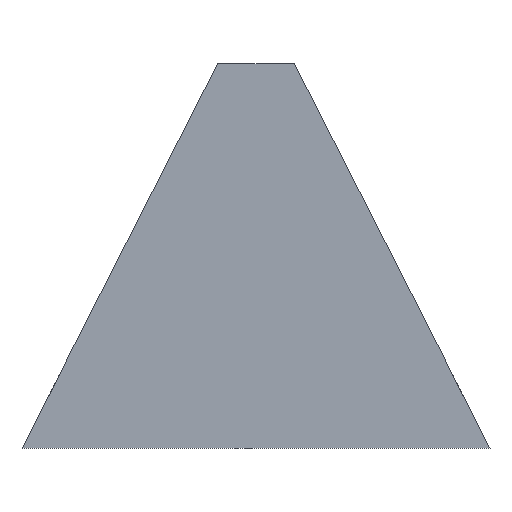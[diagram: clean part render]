
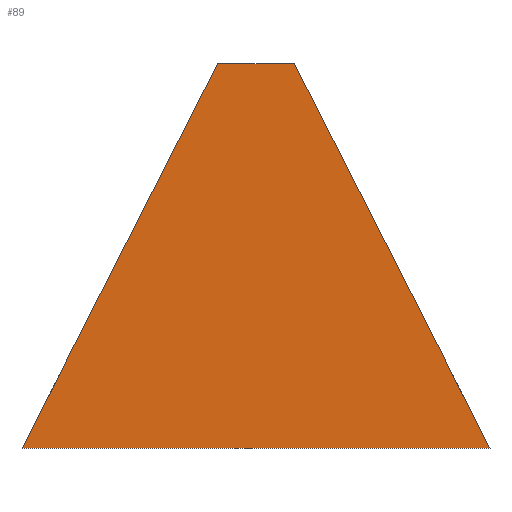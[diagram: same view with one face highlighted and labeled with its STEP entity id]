
A CAD part, top view. The second image highlights one B-rep face of the part: STEP entity #89.
In plain terms, the highlighted planar face has unit normal (0, 0, 1).
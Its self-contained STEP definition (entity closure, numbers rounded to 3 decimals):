
#89=ADVANCED_FACE('',(#377),#379,.T.);
#377=FACE_BOUND('',#378,.T.);
#378=EDGE_LOOP('',(#618,#619,#620,#621));
#379=PLANE('',#380);
#380=AXIS2_PLACEMENT_3D('',#381,#382,#383);
#381=CARTESIAN_POINT('',(0.,0.,8.));
#382=DIRECTION('',(0.,0.,1.));
#383=DIRECTION('',(-1.,0.,0.));
#618=ORIENTED_EDGE('',*,*,#705,.T.);
#619=ORIENTED_EDGE('',*,*,#706,.T.);
#620=ORIENTED_EDGE('',*,*,#707,.T.);
#621=ORIENTED_EDGE('',*,*,#695,.T.);
#695=EDGE_CURVE('',#744,#742,#745,.T.);
#705=EDGE_CURVE('',#742,#760,#762,.T.);
#706=EDGE_CURVE('',#760,#763,#764,.T.);
#707=EDGE_CURVE('',#763,#744,#765,.T.);
#742=VERTEX_POINT('',#822);
#744=VERTEX_POINT('',#826);
#745=LINE('',#827,#828);
#760=VERTEX_POINT('',#864);
#762=LINE('',#868,#869);
#763=VERTEX_POINT('',#871);
#764=LINE('',#872,#873);
#765=LINE('',#875,#876);
#822=CARTESIAN_POINT('',(-33.5,-66.054,8.));
#826=CARTESIAN_POINT('',(-5.476,-11.054,8.));
#827=CARTESIAN_POINT('',(-5.476,-11.054,8.));
#828=VECTOR('',#829,1.);
#829=DIRECTION('',(-0.454,-0.891,0.));
#864=CARTESIAN_POINT('',(33.5,-66.054,8.));
#868=CARTESIAN_POINT('',(-33.5,-66.054,8.));
#869=VECTOR('',#870,1.);
#870=DIRECTION('',(1.,0.,0.));
#871=CARTESIAN_POINT('',(5.476,-11.054,8.));
#872=CARTESIAN_POINT('',(33.5,-66.054,8.));
#873=VECTOR('',#874,1.);
#874=DIRECTION('',(-0.454,0.891,0.));
#875=CARTESIAN_POINT('',(5.476,-11.054,8.));
#876=VECTOR('',#877,1.);
#877=DIRECTION('',(-1.,0.,0.));
